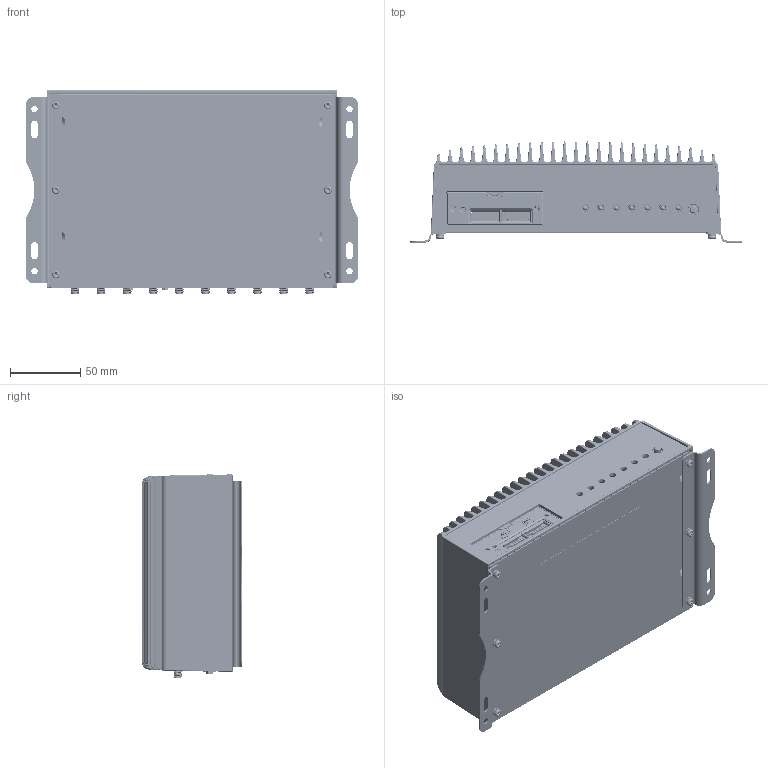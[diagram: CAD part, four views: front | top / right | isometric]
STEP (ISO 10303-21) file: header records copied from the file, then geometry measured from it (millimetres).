
FILE_DESCRIPTION((''),'2;1');
FILE_NAME('PRT0005','2018-07-02T',('ahartzle'),(''),'CREO PARAMETRIC BY PTC INC, 2016130','CREO PARAMETRIC BY PTC INC, 2016130','');
FILE_SCHEMA(('AUTOMOTIVE_DESIGN { 1 0 10303 214 1 1 1 1 }'));
Products named in the file (1): PRT0005
Bounding box: 235.6 x 71.5 x 144.75 mm (x, y, z)
Volume: 283952.4 mm3; surface area: 349675 mm2
Topology: 71 solids, 98 shells, 7707 faces, 20851 edges, 13416 vertices
Faces by surface type: plane 2917, cylinder 2352, bspline 1234, torus 570, cone 354, extrusion 218, sphere 54, revolution 8
Entity records: 380142 total; most frequent: CARTESIAN_POINT 199694, ORIENTED_EDGE 41430, DIRECTION 31282, EDGE_CURVE 20715, VERTEX_POINT 13392, AXIS2_PLACEMENT_3D 10610, VECTOR 10054, LINE 9836
